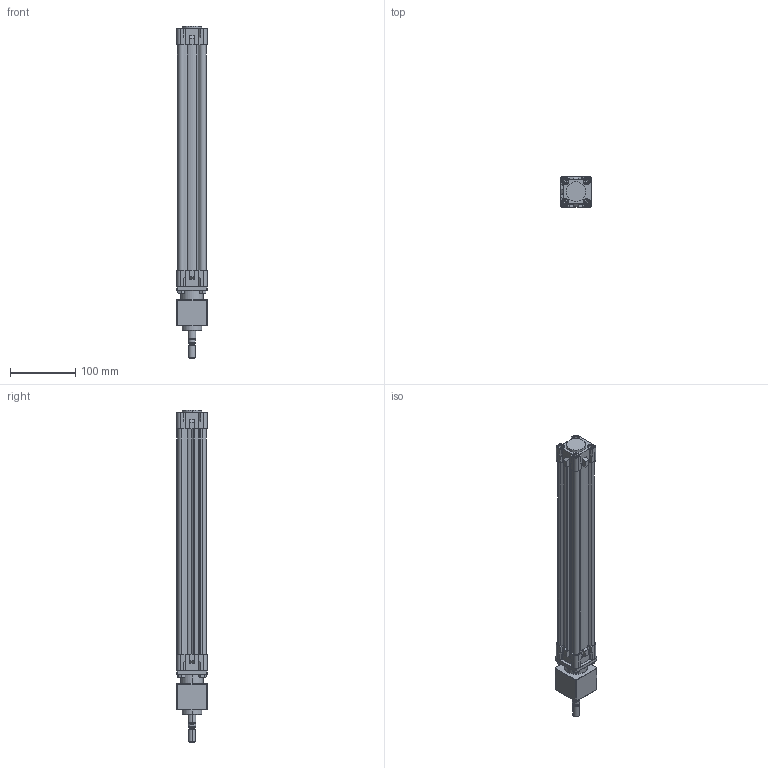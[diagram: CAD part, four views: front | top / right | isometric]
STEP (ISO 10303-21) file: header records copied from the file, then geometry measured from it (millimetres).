
FILE_DESCRIPTION (( 'STEP AP214' ), '1' );
FILE_NAME ('WALCK-032-0300 (MDMY).STEP', '2017-04-26T12:17:43', ( 'Hidtek' ), ( '' ), 'SwSTEP 2.0', 'SolidWorks 2016', '' );
FILE_SCHEMA (( 'AUTOMOTIVE_DESIGN' ));
Length unit declared in the file: millimetre
Products named in the file (4): WI-RDLCK-032 (3DMY)-1^WALCK-032-0300 (MDMY); WALCK-032-0300 (MDMY); Group1^WALCK-032-0300 (MDMY); Group2^WALCK-032-0300 (MDMY)
Assembly tree (3 placements, depth 2):
  WALCK-032-0300 (MDMY)
    Group1^WALCK-032-0300 (MDMY)
    Group2^WALCK-032-0300 (MDMY)
    WI-RDLCK-032 (3DMY)-1^WALCK-032-0300 (MDMY)
Bounding box: 47 x 47 x 507.01 mm (x, y, z)
Volume: 612920.8 mm3; surface area: 179981.2 mm2
Topology: 21 solids, 21 shells, 814 faces, 2006 edges, 1276 vertices
Faces by surface type: plane 493, cylinder 169, cone 126, torus 26
Entity records: 27155 total; most frequent: CARTESIAN_POINT 5249, DIRECTION 3972, ORIENTED_EDGE 3964, EDGE_CURVE 1982, VECTOR 1352, LINE 1352, AXIS2_PLACEMENT_3D 1310, VERTEX_POINT 1276
